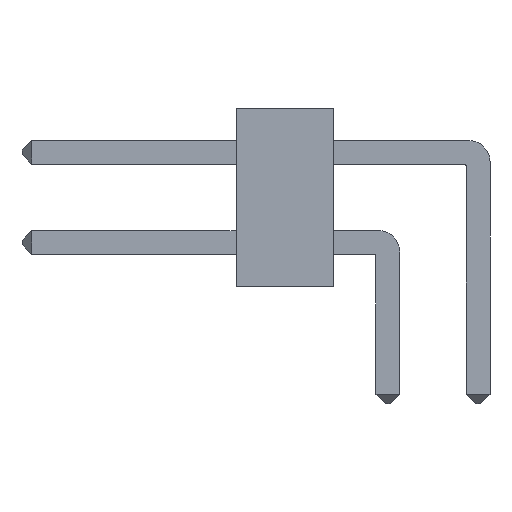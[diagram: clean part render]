
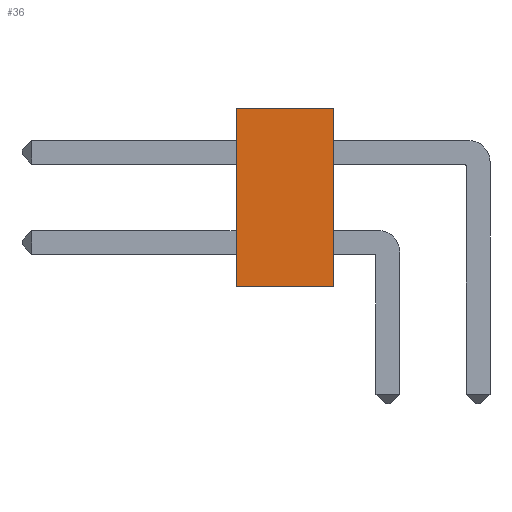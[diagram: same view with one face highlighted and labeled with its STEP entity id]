
A CAD part, left-side view. The second image highlights one B-rep face of the part: STEP entity #36.
In plain terms, the highlighted planar face has unit normal (-1, 0, 0).
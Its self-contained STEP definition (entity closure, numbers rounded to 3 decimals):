
#36 = ADVANCED_FACE('',(#37),#51,.F.);
#37 = FACE_BOUND('',#38,.F.);
#38 = EDGE_LOOP('',(#39,#74,#102,#130));
#39 = ORIENTED_EDGE('',*,*,#40,.F.);
#40 = EDGE_CURVE('',#41,#43,#45,.T.);
#41 = VERTEX_POINT('',#42);
#42 = CARTESIAN_POINT('',(-1.37,4.06,0.));
#43 = VERTEX_POINT('',#44);
#44 = CARTESIAN_POINT('',(-1.37,4.06,5.03));
#45 = SURFACE_CURVE('',#46,(#50,#62),.PCURVE_S1.);
#46 = LINE('',#47,#48);
#47 = CARTESIAN_POINT('',(-1.37,4.06,0.));
#48 = VECTOR('',#49,1.);
#49 = DIRECTION('',(0.,0.,1.));
#50 = PCURVE('',#51,#56);
#51 = PLANE('',#52);
#52 = AXIS2_PLACEMENT_3D('',#53,#54,#55);
#53 = CARTESIAN_POINT('',(-1.37,4.06,0.));
#54 = DIRECTION('',(1.,0.,0.));
#55 = DIRECTION('',(0.,0.,1.));
#56 = DEFINITIONAL_REPRESENTATION('',(#57),#61);
#57 = LINE('',#58,#59);
#58 = CARTESIAN_POINT('',(0.,0.));
#59 = VECTOR('',#60,1.);
#60 = DIRECTION('',(1.,0.));
#61 = ( GEOMETRIC_REPRESENTATION_CONTEXT(2) 
PARAMETRIC_REPRESENTATION_CONTEXT() REPRESENTATION_CONTEXT('2D SPACE',''
  ) );
#62 = PCURVE('',#63,#68);
#63 = PLANE('',#64);
#64 = AXIS2_PLACEMENT_3D('',#65,#66,#67);
#65 = CARTESIAN_POINT('',(-1.37,4.06,0.));
#66 = DIRECTION('',(0.,1.,0.));
#67 = DIRECTION('',(0.,0.,1.));
#68 = DEFINITIONAL_REPRESENTATION('',(#69),#73);
#69 = LINE('',#70,#71);
#70 = CARTESIAN_POINT('',(0.,0.));
#71 = VECTOR('',#72,1.);
#72 = DIRECTION('',(1.,0.));
#73 = ( GEOMETRIC_REPRESENTATION_CONTEXT(2) 
PARAMETRIC_REPRESENTATION_CONTEXT() REPRESENTATION_CONTEXT('2D SPACE',''
  ) );
#74 = ORIENTED_EDGE('',*,*,#75,.T.);
#75 = EDGE_CURVE('',#41,#76,#78,.T.);
#76 = VERTEX_POINT('',#77);
#77 = CARTESIAN_POINT('',(-1.37,6.8,0.));
#78 = SURFACE_CURVE('',#79,(#83,#90),.PCURVE_S1.);
#79 = LINE('',#80,#81);
#80 = CARTESIAN_POINT('',(-1.37,4.06,0.));
#81 = VECTOR('',#82,1.);
#82 = DIRECTION('',(0.,1.,0.));
#83 = PCURVE('',#51,#84);
#84 = DEFINITIONAL_REPRESENTATION('',(#85),#89);
#85 = LINE('',#86,#87);
#86 = CARTESIAN_POINT('',(0.,0.));
#87 = VECTOR('',#88,1.);
#88 = DIRECTION('',(0.,-1.));
#89 = ( GEOMETRIC_REPRESENTATION_CONTEXT(2) 
PARAMETRIC_REPRESENTATION_CONTEXT() REPRESENTATION_CONTEXT('2D SPACE',''
  ) );
#90 = PCURVE('',#91,#96);
#91 = PLANE('',#92);
#92 = AXIS2_PLACEMENT_3D('',#93,#94,#95);
#93 = CARTESIAN_POINT('',(-1.37,4.06,0.));
#94 = DIRECTION('',(0.,0.,1.));
#95 = DIRECTION('',(1.,0.,0.));
#96 = DEFINITIONAL_REPRESENTATION('',(#97),#101);
#97 = LINE('',#98,#99);
#98 = CARTESIAN_POINT('',(0.,0.));
#99 = VECTOR('',#100,1.);
#100 = DIRECTION('',(0.,1.));
#101 = ( GEOMETRIC_REPRESENTATION_CONTEXT(2) 
PARAMETRIC_REPRESENTATION_CONTEXT() REPRESENTATION_CONTEXT('2D SPACE',''
  ) );
#102 = ORIENTED_EDGE('',*,*,#103,.T.);
#103 = EDGE_CURVE('',#76,#104,#106,.T.);
#104 = VERTEX_POINT('',#105);
#105 = CARTESIAN_POINT('',(-1.37,6.8,5.03));
#106 = SURFACE_CURVE('',#107,(#111,#118),.PCURVE_S1.);
#107 = LINE('',#108,#109);
#108 = CARTESIAN_POINT('',(-1.37,6.8,0.));
#109 = VECTOR('',#110,1.);
#110 = DIRECTION('',(0.,0.,1.));
#111 = PCURVE('',#51,#112);
#112 = DEFINITIONAL_REPRESENTATION('',(#113),#117);
#113 = LINE('',#114,#115);
#114 = CARTESIAN_POINT('',(0.,-2.74));
#115 = VECTOR('',#116,1.);
#116 = DIRECTION('',(1.,0.));
#117 = ( GEOMETRIC_REPRESENTATION_CONTEXT(2) 
PARAMETRIC_REPRESENTATION_CONTEXT() REPRESENTATION_CONTEXT('2D SPACE',''
  ) );
#118 = PCURVE('',#119,#124);
#119 = PLANE('',#120);
#120 = AXIS2_PLACEMENT_3D('',#121,#122,#123);
#121 = CARTESIAN_POINT('',(-1.37,6.8,0.));
#122 = DIRECTION('',(0.,1.,0.));
#123 = DIRECTION('',(0.,0.,1.));
#124 = DEFINITIONAL_REPRESENTATION('',(#125),#129);
#125 = LINE('',#126,#127);
#126 = CARTESIAN_POINT('',(0.,0.));
#127 = VECTOR('',#128,1.);
#128 = DIRECTION('',(1.,0.));
#129 = ( GEOMETRIC_REPRESENTATION_CONTEXT(2) 
PARAMETRIC_REPRESENTATION_CONTEXT() REPRESENTATION_CONTEXT('2D SPACE',''
  ) );
#130 = ORIENTED_EDGE('',*,*,#131,.F.);
#131 = EDGE_CURVE('',#43,#104,#132,.T.);
#132 = SURFACE_CURVE('',#133,(#137,#144),.PCURVE_S1.);
#133 = LINE('',#134,#135);
#134 = CARTESIAN_POINT('',(-1.37,4.06,5.03));
#135 = VECTOR('',#136,1.);
#136 = DIRECTION('',(0.,1.,0.));
#137 = PCURVE('',#51,#138);
#138 = DEFINITIONAL_REPRESENTATION('',(#139),#143);
#139 = LINE('',#140,#141);
#140 = CARTESIAN_POINT('',(5.03,0.));
#141 = VECTOR('',#142,1.);
#142 = DIRECTION('',(0.,-1.));
#143 = ( GEOMETRIC_REPRESENTATION_CONTEXT(2) 
PARAMETRIC_REPRESENTATION_CONTEXT() REPRESENTATION_CONTEXT('2D SPACE',''
  ) );
#144 = PCURVE('',#145,#150);
#145 = PLANE('',#146);
#146 = AXIS2_PLACEMENT_3D('',#147,#148,#149);
#147 = CARTESIAN_POINT('',(-1.37,4.06,5.03));
#148 = DIRECTION('',(0.,0.,1.));
#149 = DIRECTION('',(1.,0.,0.));
#150 = DEFINITIONAL_REPRESENTATION('',(#151),#155);
#151 = LINE('',#152,#153);
#152 = CARTESIAN_POINT('',(0.,0.));
#153 = VECTOR('',#154,1.);
#154 = DIRECTION('',(0.,1.));
#155 = ( GEOMETRIC_REPRESENTATION_CONTEXT(2) 
PARAMETRIC_REPRESENTATION_CONTEXT() REPRESENTATION_CONTEXT('2D SPACE',''
  ) );
